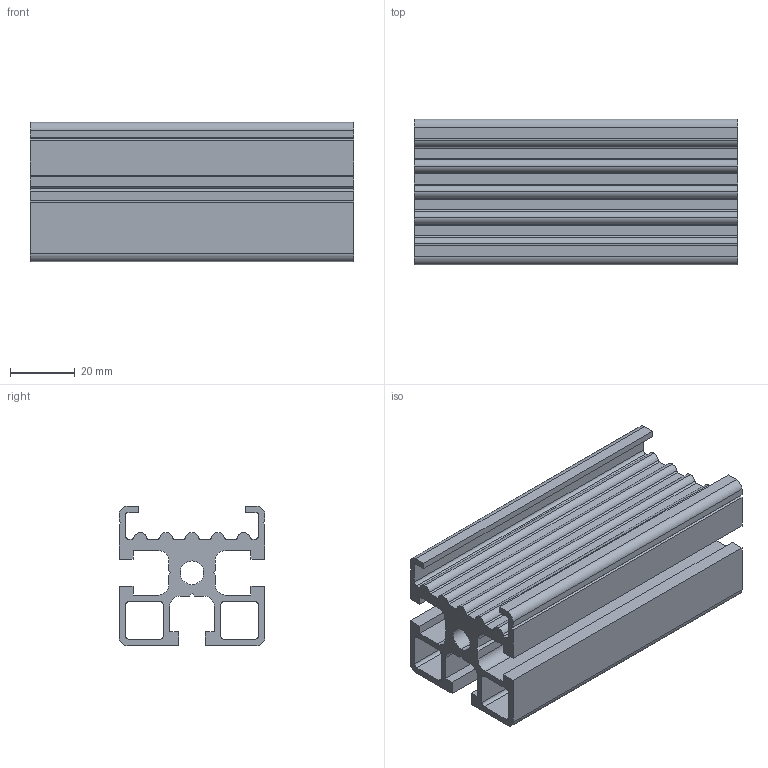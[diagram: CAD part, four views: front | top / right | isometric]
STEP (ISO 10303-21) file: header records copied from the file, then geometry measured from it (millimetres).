
FILE_DESCRIPTION (( 'STEP AP214' ), '1' );
FILE_NAME ('084.108.001.STEP', '2020-07-23T08:16:25', ( '' ), ( '' ), 'SwSTEP 2.0', 'SolidWorks 2018', '' );
FILE_SCHEMA (( 'AUTOMOTIVE_DESIGN' ));
Length unit declared in the file: millimetre
Products named in the file (1): 084.108.001
Bounding box: 100 x 45 x 43 mm (x, y, z)
Volume: 70167.3 mm3; surface area: 46223.2 mm2
Topology: 1 solids, 1 shells, 110 faces, 324 edges, 216 vertices
Faces by surface type: plane 66, cylinder 44
Entity records: 3722 total; most frequent: CARTESIAN_POINT 651, ORIENTED_EDGE 648, DIRECTION 634, EDGE_CURVE 324, LINE 236, VECTOR 236, VERTEX_POINT 216, AXIS2_PLACEMENT_3D 199
